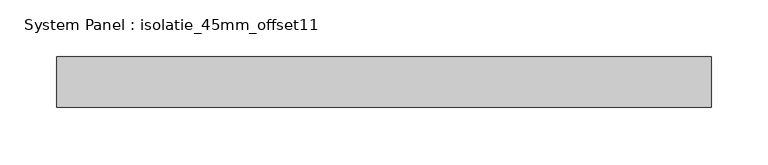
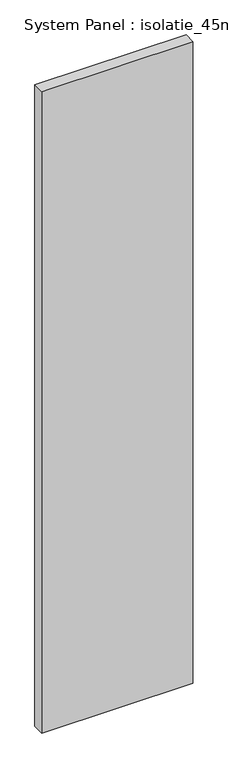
"""IFC4 building model written with IfcOpenShell, lengths in millimetres: plate geometry, System Panel : isolatie_45mm_offset11."""

from ifc_helpers import new_model, si_unit, origin, origin_with_axes, place, context, project, spatial, polyline, outline, extrude, source, transform, mapped, element, save


def system_panel_isolatie_45mm_offset11_8af3e5f7(model_context):
    return source(origin(), model_context, "Body", "SweptSolid", [
        extrude(outline(polyline([(289.5, -11.5), (-289.5, -11.5), (-289.5, 33.5), (289.5, 33.5), (289.5, -11.5)])), origin_with_axes(), (0.0, 0.0, 1.0), 2598.0),
    ])


if __name__ == "__main__":
    model = new_model("IFC4")
    model_context = context("Model", 3, world=origin())
    ifc_project = project(units=[si_unit("LENGTHUNIT", "METRE", prefix="MILLI")], contexts=[model_context])
    site = spatial("IfcSite", under=ifc_project)
    building = spatial("IfcBuilding", under=site)
    placement = place(None, origin())
    system_panel_isolatie_45mm_offset11_shape = system_panel_isolatie_45mm_offset11_8af3e5f7(model_context)
    element("IfcPlate", 1, ObjectType="System Panel : isolatie_45mm_offset11", at=placement, inside=building, context=model_context, shape_type="MappedRepresentation", body=[
        mapped(system_panel_isolatie_45mm_offset11_shape, transform((0.0, 0.0, 0.0), x_axis=(1.0, 0.0, 0.0), y_axis=(0.0, 1.0, 0.0), z_axis=(0.0, 0.0, 1.0))),
    ])
    save(model, "model.ifc")
